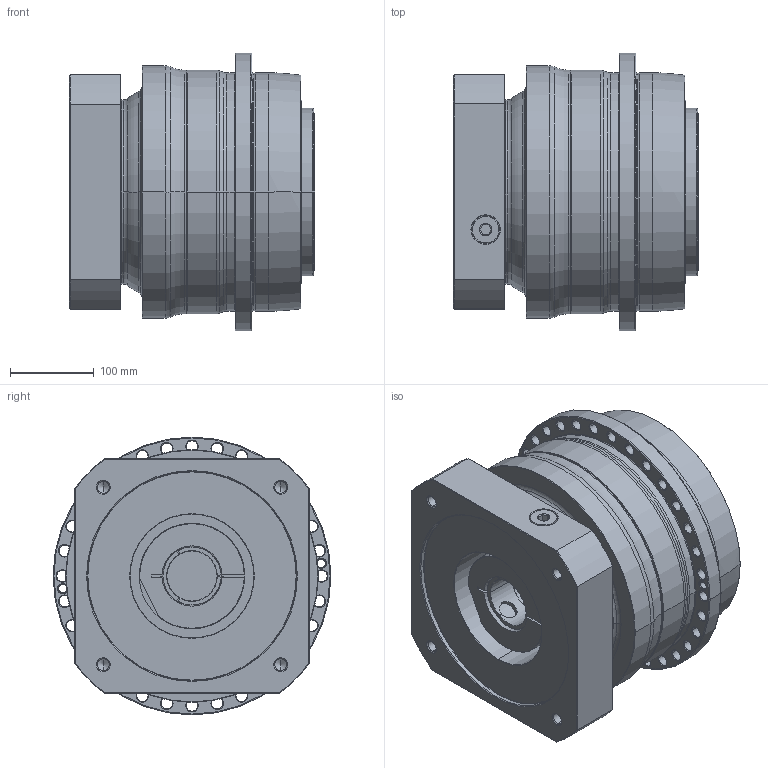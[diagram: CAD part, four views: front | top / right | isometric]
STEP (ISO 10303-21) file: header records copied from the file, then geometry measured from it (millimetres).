
FILE_DESCRIPTION((''),'2;1');
FILE_NAME('AP285_1ST_60-P0409D00201_ASM','2018-05-28T',('d01226'),(''),'PRO/ENGINEER BY PARAMETRIC TECHNOLOGY CORPORATION, 2008410','PRO/ENGINEER BY PARAMETRIC TECHNOLOGY CORPORATION, 2008410','');
FILE_SCHEMA(('CONFIG_CONTROL_DESIGN'));
Length unit declared in the file: millimetre
Products named in the file (9): P0278801003; P0359801103; P1318810501; P0503D00016; P0912805001; P1211800002; P0409D00201; 21711426021; AP285_1ST_60-P0409D00201_ASM
Assembly tree (8 placements, depth 2):
  AP285_1ST_60-P0409D00201_ASM
    P0278801003
    P0359801103
    P1318810501
    P0503D00016
    P0912805001
    P1211800002
    P0409D00201
    21711426021
Bounding box: 293 x 332 x 332 mm (x, y, z)
Volume: 16382536.2 mm3; surface area: 1116774.8 mm2
Topology: 9 solids, 32 shells, 681 faces, 1573 edges, 956 vertices
Faces by surface type: cylinder 270, cone 218, plane 101, torus 78, bspline 14
Entity records: 24250 total; most frequent: CARTESIAN_POINT 7915, DIRECTION 3771, ORIENTED_EDGE 3036, AXIS2_PLACEMENT_3D 1609, EDGE_CURVE 1565, VERTEX_POINT 956, CIRCLE 913, EDGE_LOOP 843
